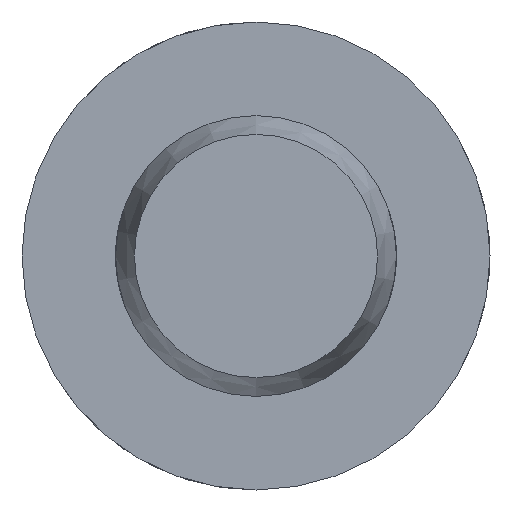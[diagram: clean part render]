
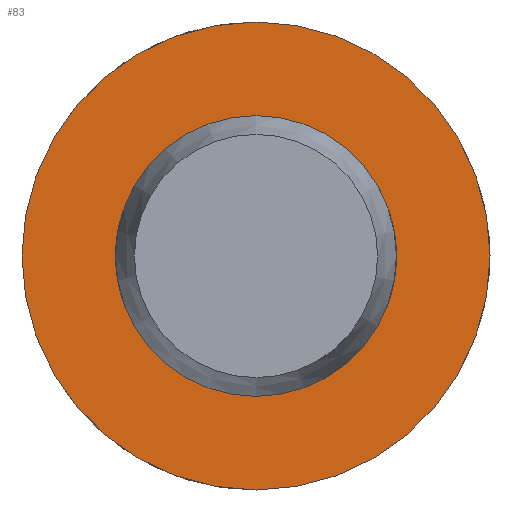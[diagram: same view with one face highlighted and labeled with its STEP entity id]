
A CAD part, left-side view. The second image highlights one B-rep face of the part: STEP entity #83.
In plain terms, the highlighted planar face has unit normal (-1, 0, 0).
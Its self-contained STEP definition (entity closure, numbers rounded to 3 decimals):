
#83 = ADVANCED_FACE( '', ( #128, #129 ), #130, .F. );
#128 = FACE_OUTER_BOUND( '', #205, .T. );
#129 = FACE_BOUND( '', #206, .T. );
#130 = PLANE( '', #207 );
#205 = EDGE_LOOP( '', ( #320 ) );
#206 = EDGE_LOOP( '', ( #321 ) );
#207 = AXIS2_PLACEMENT_3D( '', #322, #323, #324 );
#320 = ORIENTED_EDGE( '', *, *, #484, .F. );
#321 = ORIENTED_EDGE( '', *, *, #474, .T. );
#322 = CARTESIAN_POINT( '', ( 30.6, 6., 0. ) );
#323 = DIRECTION( '', ( 1., 0., 0. ) );
#324 = DIRECTION( '', ( 0., 0., -1. ) );
#474 = EDGE_CURVE( '', #545, #545, #546, .T. );
#484 = EDGE_CURVE( '', #563, #563, #564, .T. );
#545 = VERTEX_POINT( '', #734 );
#546 = CIRCLE( '', #735, 6. );
#563 = VERTEX_POINT( '', #903 );
#564 = CIRCLE( '', #904, 10. );
#734 = CARTESIAN_POINT( '', ( 30.6, 0., -6. ) );
#735 = AXIS2_PLACEMENT_3D( '', #965, #966, #967 );
#903 = CARTESIAN_POINT( '', ( 30.6, 0., -10. ) );
#904 = AXIS2_PLACEMENT_3D( '', #986, #987, #988 );
#965 = CARTESIAN_POINT( '', ( 30.6, 0., 0. ) );
#966 = DIRECTION( '', ( 1., 0., 0. ) );
#967 = DIRECTION( '', ( 0., 0., -1. ) );
#986 = CARTESIAN_POINT( '', ( 30.6, 0., 0. ) );
#987 = DIRECTION( '', ( 1., 0., 0. ) );
#988 = DIRECTION( '', ( 0., 0., -1. ) );
